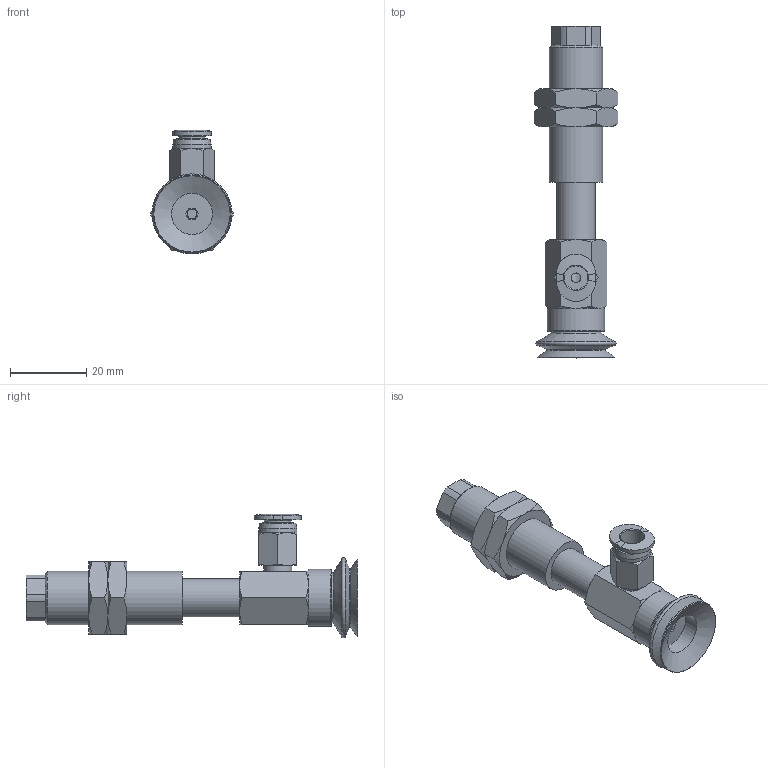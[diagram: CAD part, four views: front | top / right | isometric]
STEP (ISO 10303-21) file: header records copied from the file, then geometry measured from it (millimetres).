
FILE_DESCRIPTION(('STEP AP203'),'1');
FILE_NAME('-O.stp','2025-04-24T01:29:40',(' '),(' '),'Spatial InterOp 3D',' ',' ');
FILE_SCHEMA(('CONFIG_CONTROL_DESIGN'));
Length unit declared in the file: millimetre
Products named in the file (8): BNABPJYS-20-15-※-O; Adapter-20-NAPJ; CONNECTOR_S-20-15; NUT-NAPJ-20-15-s; NAPJTS-20-15-FBODY; NAPJTS-20-15-MBODY; BPJG-20-※; PC-C_06-M5
Assembly tree (8 placements, depth 2):
  BNABPJYS-20-15-※-O
    Adapter-20-NAPJ
    CONNECTOR_S-20-15
    NUT-NAPJ-20-15-s  x2
    NAPJTS-20-15-FBODY
    NAPJTS-20-15-MBODY
    BPJG-20-※
    PC-C_06-M5
Bounding box: 21.94 x 87 x 32.48 mm (x, y, z)
Volume: 13437.3 mm3; surface area: 11839 mm2
Topology: 7 solids, 10 shells, 194 faces, 412 edges, 251 vertices
Faces by surface type: plane 77, cone 70, cylinder 31, torus 9, bspline 4, revolution 3
Full cylindrical faces by diameter (mm): 2.5 x1, 3 x1, 4 x2, 4.134 x3, 4.6 x1, 5 x3, 7 x1, 7.4 x1, 8.2 x1, 10 x3, 10.8 x1, 11 x1, 13.188 x2, 14 x1, 15 x1
Entity records: 5158 total; most frequent: CARTESIAN_POINT 1413, DIRECTION 699, ORIENTED_EDGE 604, EDGE_CURVE 304, AXIS2_PLACEMENT_3D 302, EDGE_LOOP 250, VERTEX_POINT 214, FACE_OUTER_BOUND 142
